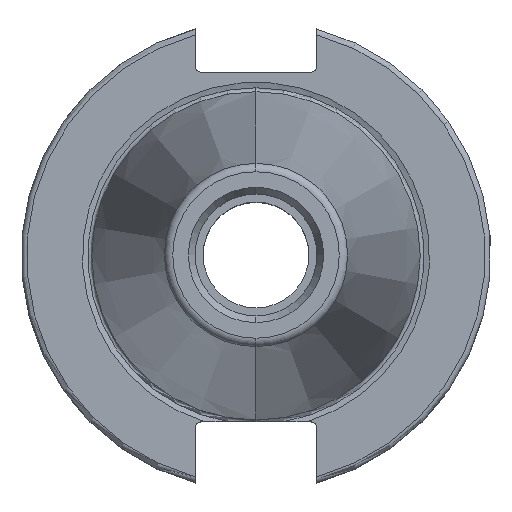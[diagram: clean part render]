
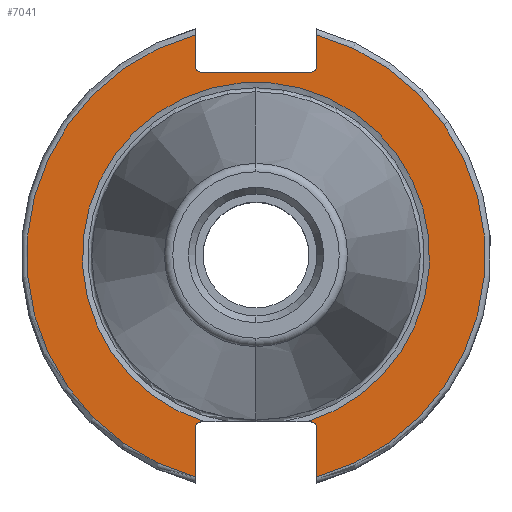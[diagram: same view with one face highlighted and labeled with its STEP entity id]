
A CAD part, top view. The second image highlights one B-rep face of the part: STEP entity #7041.
In plain terms, the highlighted planar face has unit normal (0, 0, 1).
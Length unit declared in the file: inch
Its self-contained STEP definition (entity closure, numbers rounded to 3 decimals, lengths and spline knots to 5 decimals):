
#567 = CARTESIAN_POINT ( 'NONE',  ( 0.2925, -0.9125, -0.125 ) ) ;
#1025 = EDGE_CURVE ( 'NONE', #5287, #12711, #1631, .T. ) ;
#1160 = VERTEX_POINT ( 'NONE', #18003 ) ;
#1208 = CARTESIAN_POINT ( 'NONE',  ( 0.3225, -1.1766, -0.125 ) ) ;
#1247 = VECTOR ( 'NONE', #8736, 39.37008 ) ;
#1363 = LINE ( 'NONE', #13364, #1247 ) ;
#1559 = VERTEX_POINT ( 'NONE', #14121 ) ;
#1631 = CIRCLE ( 'NONE', #12297, 0.03 ) ;
#1718 = DIRECTION ( 'NONE',  ( 0., -1., 0. ) ) ;
#1770 = CARTESIAN_POINT ( 'NONE',  ( 0.3225, 1.1766, -0.125 ) ) ;
#1776 = EDGE_CURVE ( 'NONE', #16756, #7457, #2456, .T. ) ;
#2006 = DIRECTION ( 'NONE',  ( 0., -1., 0. ) ) ;
#2456 = CIRCLE ( 'NONE', #3340, 1.22 ) ;
#2624 = CIRCLE ( 'NONE', #14201, 0.03 ) ;
#2640 = VERTEX_POINT ( 'NONE', #7011 ) ;
#2698 = CARTESIAN_POINT ( 'NONE',  ( 0., 0., -0.125 ) ) ;
#2889 = PLANE ( 'NONE',  #8900 ) ;
#3105 = CARTESIAN_POINT ( 'NONE',  ( 0.2925, 1.0075, -0.125 ) ) ;
#3114 = EDGE_CURVE ( 'NONE', #3883, #1160, #7005, .T. ) ;
#3139 = EDGE_CURVE ( 'NONE', #2640, #3883, #15398, .T. ) ;
#3340 = AXIS2_PLACEMENT_3D ( 'NONE', #6758, #8102, #9546 ) ;
#3478 = AXIS2_PLACEMENT_3D ( 'NONE', #2698, #17300, #18731 ) ;
#3610 = VERTEX_POINT ( 'NONE', #16095 ) ;
#3705 = ORIENTED_EDGE ( 'NONE', *, *, #3114, .T. ) ;
#3847 = CARTESIAN_POINT ( 'NONE',  ( -0.2925, -0.9125, -0.125 ) ) ;
#3883 = VERTEX_POINT ( 'NONE', #17042 ) ;
#3955 = DIRECTION ( 'NONE',  ( 0., -1., 0. ) ) ;
#4031 = LINE ( 'NONE', #8685, #11413 ) ;
#4198 = VECTOR ( 'NONE', #8488, 39.37008 ) ;
#4284 = LINE ( 'NONE', #17593, #4198 ) ;
#4305 = DIRECTION ( 'NONE',  ( 1., 0., 0. ) ) ;
#4379 = FACE_OUTER_BOUND ( 'NONE', #4824, .T. ) ;
#4473 = CARTESIAN_POINT ( 'NONE',  ( 0.2925, 0.9775, -0.125 ) ) ;
#4608 = DIRECTION ( 'NONE',  ( 0., 0., -1. ) ) ;
#4655 = DIRECTION ( 'NONE',  ( 0., -1., 0. ) ) ;
#4745 = EDGE_CURVE ( 'NONE', #1559, #2640, #5032, .T. ) ;
#4808 = ORIENTED_EDGE ( 'NONE', *, *, #9980, .T. ) ;
#4813 = VERTEX_POINT ( 'NONE', #15299 ) ;
#4824 = EDGE_LOOP ( 'NONE', ( #18549, #13888, #9246, #4949, #8281, #3705, #15655, #6393, #4808, #13954, #9091, #7909, #15569, #8113 ) ) ;
#4949 = ORIENTED_EDGE ( 'NONE', *, *, #4745, .T. ) ;
#5032 = CIRCLE ( 'NONE', #11173, 0.03 ) ;
#5286 = CARTESIAN_POINT ( 'NONE',  ( -0.2925, 1.0075, -0.125 ) ) ;
#5287 = VERTEX_POINT ( 'NONE', #8015 ) ;
#5730 = AXIS2_PLACEMENT_3D ( 'NONE', #3105, #4608, #1718 ) ;
#6029 = EDGE_CURVE ( 'NONE', #1160, #5287, #4284, .T. ) ;
#6077 = VERTEX_POINT ( 'NONE', #4473 ) ;
#6393 = ORIENTED_EDGE ( 'NONE', *, *, #1025, .T. ) ;
#6434 = CARTESIAN_POINT ( 'NONE',  ( -0.3225, 1.1766, -0.125 ) ) ;
#6758 = CARTESIAN_POINT ( 'NONE',  ( 0., 0., -0.125 ) ) ;
#6771 = DIRECTION ( 'NONE',  ( 0., 0., -1. ) ) ;
#7005 = CIRCLE ( 'NONE', #11922, 0.92393 ) ;
#7011 = CARTESIAN_POINT ( 'NONE',  ( -0.2925, -0.8825, -0.125 ) ) ;
#7041 = ADVANCED_FACE ( 'NONE', ( #4379 ), #2889, .T. ) ;
#7457 = VERTEX_POINT ( 'NONE', #6434 ) ;
#7749 = EDGE_CURVE ( 'NONE', #3610, #6077, #13090, .T. ) ;
#7833 = VERTEX_POINT ( 'NONE', #10558 ) ;
#7909 = ORIENTED_EDGE ( 'NONE', *, *, #7749, .T. ) ;
#7923 = EDGE_CURVE ( 'NONE', #16756, #1559, #11139, .T. ) ;
#8015 = CARTESIAN_POINT ( 'NONE',  ( 0.2925, -0.8825, -0.125 ) ) ;
#8102 = DIRECTION ( 'NONE',  ( 0., 0., -1. ) ) ;
#8113 = ORIENTED_EDGE ( 'NONE', *, *, #14230, .T. ) ;
#8118 = CARTESIAN_POINT ( 'NONE',  ( 0., 0., -0.125 ) ) ;
#8281 = ORIENTED_EDGE ( 'NONE', *, *, #3139, .T. ) ;
#8488 = DIRECTION ( 'NONE',  ( 1., 0., 0. ) ) ;
#8489 = EDGE_CURVE ( 'NONE', #3610, #12987, #1363, .T. ) ;
#8685 = CARTESIAN_POINT ( 'NONE',  ( 1.22, 0.9775, -0.125 ) ) ;
#8736 = DIRECTION ( 'NONE',  ( 0., 1., 0. ) ) ;
#8900 = AXIS2_PLACEMENT_3D ( 'NONE', #10790, #9045, #4655 ) ;
#9045 = DIRECTION ( 'NONE',  ( 0., 0., 1. ) ) ;
#9091 = ORIENTED_EDGE ( 'NONE', *, *, #8489, .F. ) ;
#9246 = ORIENTED_EDGE ( 'NONE', *, *, #7923, .T. ) ;
#9255 = CIRCLE ( 'NONE', #3478, 1.22 ) ;
#9546 = DIRECTION ( 'NONE',  ( 0., 1., 0. ) ) ;
#9677 = DIRECTION ( 'NONE',  ( 0., -1., 0. ) ) ;
#9789 = CARTESIAN_POINT ( 'NONE',  ( -0.3225, 0., -0.125 ) ) ;
#9874 = CARTESIAN_POINT ( 'NONE',  ( 0.3225, -0.9125, -0.125 ) ) ;
#9980 = EDGE_CURVE ( 'NONE', #12711, #10416, #10544, .T. ) ;
#10416 = VERTEX_POINT ( 'NONE', #1208 ) ;
#10544 = LINE ( 'NONE', #16399, #12281 ) ;
#10558 = CARTESIAN_POINT ( 'NONE',  ( -0.2925, 0.9775, -0.125 ) ) ;
#10645 = DIRECTION ( 'NONE',  ( 0., 0., -1. ) ) ;
#10783 = VECTOR ( 'NONE', #11101, 39.37008 ) ;
#10790 = CARTESIAN_POINT ( 'NONE',  ( 1.22, 0., -0.125 ) ) ;
#10860 = CARTESIAN_POINT ( 'NONE',  ( -0.3225, 0., -0.125 ) ) ;
#11101 = DIRECTION ( 'NONE',  ( 1., 0., 0. ) ) ;
#11139 = LINE ( 'NONE', #9789, #15517 ) ;
#11173 = AXIS2_PLACEMENT_3D ( 'NONE', #3847, #18205, #9677 ) ;
#11413 = VECTOR ( 'NONE', #4305, 39.37008 ) ;
#11922 = AXIS2_PLACEMENT_3D ( 'NONE', #8118, #6771, #12461 ) ;
#12243 = EDGE_CURVE ( 'NONE', #7457, #4813, #18137, .T. ) ;
#12281 = VECTOR ( 'NONE', #16684, 39.37008 ) ;
#12288 = DIRECTION ( 'NONE',  ( 0., -1., 0. ) ) ;
#12297 = AXIS2_PLACEMENT_3D ( 'NONE', #567, #10645, #12288 ) ;
#12310 = CARTESIAN_POINT ( 'NONE',  ( -0.3225, -1.1766, -0.125 ) ) ;
#12461 = DIRECTION ( 'NONE',  ( 0., 1., 0. ) ) ;
#12633 = VECTOR ( 'NONE', #2006, 39.37008 ) ;
#12711 = VERTEX_POINT ( 'NONE', #9874 ) ;
#12962 = DIRECTION ( 'NONE',  ( 0., 1., 0. ) ) ;
#12987 = VERTEX_POINT ( 'NONE', #1770 ) ;
#13090 = CIRCLE ( 'NONE', #5730, 0.03 ) ;
#13364 = CARTESIAN_POINT ( 'NONE',  ( 0.3225, 0., -0.125 ) ) ;
#13690 = CARTESIAN_POINT ( 'NONE',  ( 1.22, -0.8825, -0.125 ) ) ;
#13888 = ORIENTED_EDGE ( 'NONE', *, *, #1776, .F. ) ;
#13954 = ORIENTED_EDGE ( 'NONE', *, *, #17751, .F. ) ;
#14121 = CARTESIAN_POINT ( 'NONE',  ( -0.3225, -0.9125, -0.125 ) ) ;
#14201 = AXIS2_PLACEMENT_3D ( 'NONE', #5286, #18502, #3955 ) ;
#14230 = EDGE_CURVE ( 'NONE', #7833, #4813, #2624, .T. ) ;
#15274 = EDGE_CURVE ( 'NONE', #7833, #6077, #4031, .T. ) ;
#15299 = CARTESIAN_POINT ( 'NONE',  ( -0.3225, 1.0075, -0.125 ) ) ;
#15398 = LINE ( 'NONE', #13690, #10783 ) ;
#15517 = VECTOR ( 'NONE', #12962, 39.37008 ) ;
#15569 = ORIENTED_EDGE ( 'NONE', *, *, #15274, .F. ) ;
#15655 = ORIENTED_EDGE ( 'NONE', *, *, #6029, .T. ) ;
#16095 = CARTESIAN_POINT ( 'NONE',  ( 0.3225, 1.0075, -0.125 ) ) ;
#16399 = CARTESIAN_POINT ( 'NONE',  ( 0.3225, 0., -0.125 ) ) ;
#16684 = DIRECTION ( 'NONE',  ( 0., -1., 0. ) ) ;
#16756 = VERTEX_POINT ( 'NONE', #12310 ) ;
#17042 = CARTESIAN_POINT ( 'NONE',  ( -0.27356, -0.8825, -0.125 ) ) ;
#17300 = DIRECTION ( 'NONE',  ( 0., 0., -1. ) ) ;
#17593 = CARTESIAN_POINT ( 'NONE',  ( 1.22, -0.8825, -0.125 ) ) ;
#17751 = EDGE_CURVE ( 'NONE', #12987, #10416, #9255, .T. ) ;
#18003 = CARTESIAN_POINT ( 'NONE',  ( 0.27356, -0.8825, -0.125 ) ) ;
#18137 = LINE ( 'NONE', #10860, #12633 ) ;
#18205 = DIRECTION ( 'NONE',  ( 0., 0., -1. ) ) ;
#18502 = DIRECTION ( 'NONE',  ( 0., 0., -1. ) ) ;
#18549 = ORIENTED_EDGE ( 'NONE', *, *, #12243, .F. ) ;
#18731 = DIRECTION ( 'NONE',  ( 0., 1., 0. ) ) ;
